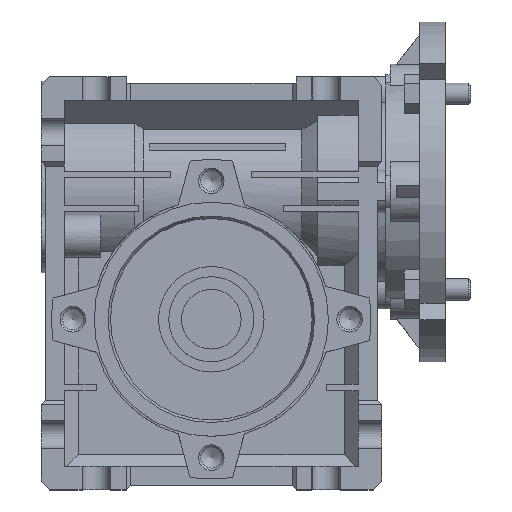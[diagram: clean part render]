
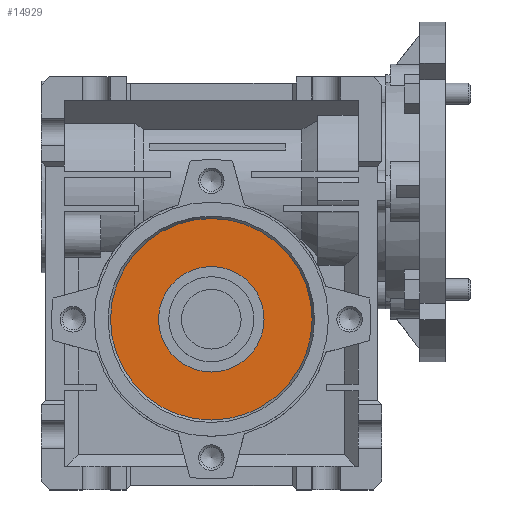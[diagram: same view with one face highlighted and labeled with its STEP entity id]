
A CAD part, top view. The second image highlights one B-rep face of the part: STEP entity #14929.
In plain terms, the highlighted planar face has unit normal (0, 0, 1) as drawn and (-1, 0, 0) by its records, which use the part's own axes.
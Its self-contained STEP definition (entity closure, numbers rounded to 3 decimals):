
#655=CIRCLE('',#16071,23.675);
#656=CIRCLE('',#16072,12.4);
#3758=ORIENTED_EDGE('',*,*,#6623,.F.);
#3759=ORIENTED_EDGE('',*,*,#6624,.F.);
#6623=EDGE_CURVE('',#8261,#8261,#655,.T.);
#6624=EDGE_CURVE('',#8262,#8262,#656,.F.);
#8261=VERTEX_POINT('',#23970);
#8262=VERTEX_POINT('',#23972);
#12430=EDGE_LOOP('',(#3758));
#12431=EDGE_LOOP('',(#3759));
#13383=FACE_BOUND('',#12430,.T.);
#13384=FACE_BOUND('',#12431,.T.);
#14213=PLANE('',#16070);
#14929=ADVANCED_FACE('',(#13383,#13384),#14213,.F.);
#16070=AXIS2_PLACEMENT_3D('',#23968,#19340,#19341);
#16071=AXIS2_PLACEMENT_3D('',#23969,#19342,#19343);
#16072=AXIS2_PLACEMENT_3D('',#23971,#19344,#19345);
#19340=DIRECTION('',(1.,0.,0.));
#19341=DIRECTION('',(0.,0.,-1.));
#19342=DIRECTION('',(1.,0.,0.));
#19343=DIRECTION('',(0.,0.,-1.));
#19344=DIRECTION('',(1.,0.,0.));
#19345=DIRECTION('',(0.,0.,-1.));
#23968=CARTESIAN_POINT('',(-30.5,0.,0.));
#23969=CARTESIAN_POINT('',(-30.5,0.,0.));
#23970=CARTESIAN_POINT('',(-30.5,0.,-23.675));
#23971=CARTESIAN_POINT('',(-30.5,0.,0.));
#23972=CARTESIAN_POINT('',(-30.5,0.,-12.4));
